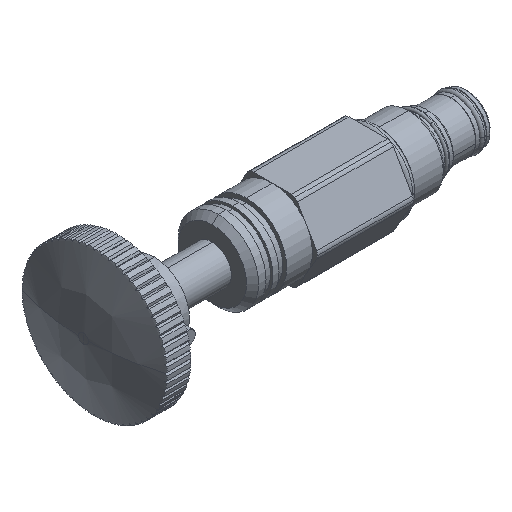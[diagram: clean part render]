
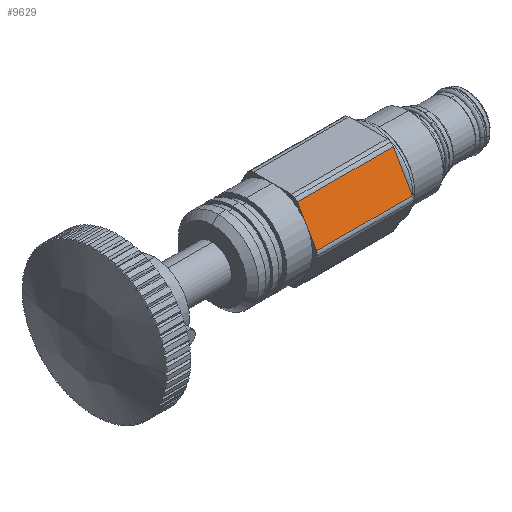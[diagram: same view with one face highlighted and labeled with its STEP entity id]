
A CAD part, isometric view. The second image highlights one B-rep face of the part: STEP entity #9629.
In plain terms, the highlighted planar face has unit normal (0, -0.866, 0.5).
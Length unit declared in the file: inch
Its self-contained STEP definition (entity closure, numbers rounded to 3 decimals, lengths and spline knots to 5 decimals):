
#8990=CARTESIAN_POINT('',(-1.192,-0.43301,0.25));
#8991=VERTEX_POINT('',#8990);
#9467=CARTESIAN_POINT('',(-1.192,-0.31466,0.455));
#9468=VERTEX_POINT('',#9467);
#9476=CARTESIAN_POINT('',(0.0,-0.31466,0.455));
#9477=VERTEX_POINT('',#9476);
#9478=CARTESIAN_POINT('',(-1.192,-0.31466,0.455));
#9479=DIRECTION('',(1.0,0.0,0.0));
#9480=VECTOR('',#9479,1.192);
#9481=LINE('',#9478,#9480);
#9482=EDGE_CURVE('',#9468,#9477,#9481,.T.);
#9500=CARTESIAN_POINT('',(0.0,-0.55137,0.045));
#9501=VERTEX_POINT('',#9500);
#9502=CARTESIAN_POINT('',(0.0,-0.31466,0.455));
#9503=DIRECTION('',(0.0,-0.5,-0.866));
#9504=VECTOR('',#9503,0.47343);
#9505=LINE('',#9502,#9504);
#9506=EDGE_CURVE('',#9477,#9501,#9505,.T.);
#9600=CARTESIAN_POINT('',(-0.596,-0.57735,0.));
#9601=DIRECTION('',(0.0,0.866,-0.5));
#9602=DIRECTION('',(-1.0,0.0,0.0));
#9603=AXIS2_PLACEMENT_3D('',#9600,#9601,#9602);
#9604=PLANE('',#9603);
#9605=ORIENTED_EDGE('',*,*,#9482,.F.);
#9606=CARTESIAN_POINT('',(-1.192,-0.43301,0.25));
#9607=DIRECTION('',(0.0,0.5,0.866));
#9608=VECTOR('',#9607,0.23671);
#9609=LINE('',#9606,#9608);
#9610=EDGE_CURVE('',#8991,#9468,#9609,.T.);
#9611=ORIENTED_EDGE('',*,*,#9610,.F.);
#9612=CARTESIAN_POINT('',(-1.192,-0.55137,0.045));
#9613=VERTEX_POINT('',#9612);
#9614=CARTESIAN_POINT('',(-1.192,-0.55137,0.045));
#9615=DIRECTION('',(0.0,0.5,0.866));
#9616=VECTOR('',#9615,0.23671);
#9617=LINE('',#9614,#9616);
#9618=EDGE_CURVE('',#9613,#8991,#9617,.T.);
#9619=ORIENTED_EDGE('',*,*,#9618,.F.);
#9620=CARTESIAN_POINT('',(0.0,-0.55137,0.045));
#9621=DIRECTION('',(-1.0,0.0,0.0));
#9622=VECTOR('',#9621,1.192);
#9623=LINE('',#9620,#9622);
#9624=EDGE_CURVE('',#9501,#9613,#9623,.T.);
#9625=ORIENTED_EDGE('',*,*,#9624,.F.);
#9626=ORIENTED_EDGE('',*,*,#9506,.F.);
#9627=EDGE_LOOP('',(#9605,#9611,#9619,#9625,#9626));
#9628=FACE_OUTER_BOUND('',#9627,.T.);
#9629=ADVANCED_FACE('',(#9628),#9604,.F.);
